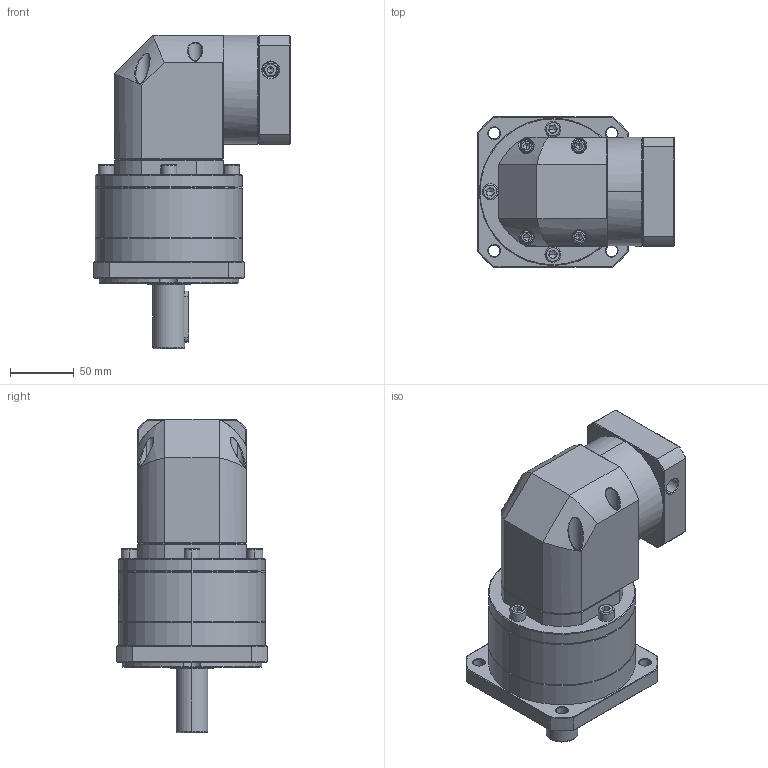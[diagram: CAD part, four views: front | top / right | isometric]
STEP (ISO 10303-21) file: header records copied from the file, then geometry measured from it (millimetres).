
FILE_DESCRIPTION (( 'STEP AP214' ), '1' );
FILE_NAME ('ZFR120A-D25-L2-P2-14-60-75-M6.step', '2023-08-27T09:15:46', ( '' ), ( '' ), 'SwSTEP 2.0', 'SolidWorks 2016', '' );
FILE_SCHEMA (( 'AUTOMOTIVE_DESIGN' ));
Length unit declared in the file: millimetre
Products named in the file (1): ZFR120A-D25-L2-P2-14-60-75-M6
Bounding box: 154.1 x 118 x 245 mm (x, y, z)
Volume: 1859925.9 mm3; surface area: 170621.1 mm2
Topology: 6 solids, 6 shells, 2409 faces, 6288 edges, 3984 vertices
Faces by surface type: plane 1174, cylinder 456, bspline 443, cone 322, torus 14
Entity records: 130154 total; most frequent: CARTESIAN_POINT 50263, ORIENTED_EDGE 12484, DIRECTION 9199, EDGE_CURVE 6242, VERTEX_POINT 3984, LINE 3383, VECTOR 3383, AXIS2_PLACEMENT_3D 2908
